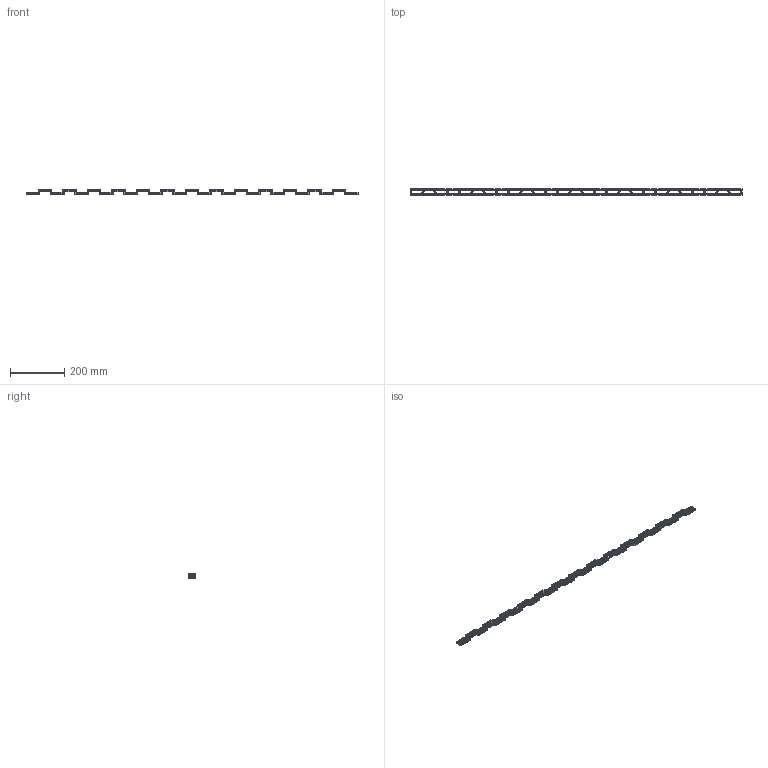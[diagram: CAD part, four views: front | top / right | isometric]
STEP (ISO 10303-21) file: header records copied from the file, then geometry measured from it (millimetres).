
FILE_DESCRIPTION(('Open CASCADE Model'),'2;1');
FILE_NAME('Open CASCADE Shape Model','1970-01-01T00:00:00',('Author'),( 'Open CASCADE'),'Open CASCADE STEP processor 7.7','Open CASCADE 7.7' ,'Unknown');
FILE_SCHEMA(('AUTOMOTIVE_DESIGN { 1 0 10303 214 1 1 1 1 }'));
Length unit declared in the file: millimetre
Products named in the file (325): Open CASCADE STEP translator 7.7 3; Open CASCADE STEP translator 7.7 3.1; Open CASCADE STEP translator 7.7 3.2; Open CASCADE STEP translator 7.7 3.3; Open CASCADE STEP translator 7.7 3.4; Open CASCADE STEP translator 7.7 3.5; Open CASCADE STEP translator 7.7 3.6; Open CASCADE STEP translator 7.7 3.7; Open CASCADE STEP translator 7.7 3.8; Open CASCADE STEP translator 7.7 3.9; Open CASCADE STEP translator 7.7 3.10; Open CASCADE STEP translator 7.7 3.11; Open CASCADE STEP translator 7.7 3.12; Open CASCADE STEP translator 7.7 3.13; Open CASCADE STEP translator 7.7 3.14; Open CASCADE STEP translator 7.7 3.15; Open CASCADE STEP translator 7.7 3.16; Open CASCADE STEP translator 7.7 3.17; Open CASCADE STEP translator 7.7 3.18; Open CASCADE STEP translator 7.7 3.19; Open CASCADE STEP translator 7.7 3.20; Open CASCADE STEP translator 7.7 3.21; Open CASCADE STEP translator 7.7 3.22; Open CASCADE STEP translator 7.7 3.23; Open CASCADE STEP translator 7.7 3.24; Open CASCADE STEP translator 7.7 3.25; Open CASCADE STEP translator 7.7 3.26; Open CASCADE STEP translator 7.7 3.27; Open CASCADE STEP translator 7.7 3.28; Open CASCADE STEP translator 7.7 3.29; Open CASCADE STEP translator 7.7 3.30; Open CASCADE STEP translator 7.7 3.31; Open CASCADE STEP translator 7.7 3.32; Open CASCADE STEP translator 7.7 3.33; Open CASCADE STEP translator 7.7 3.34; Open CASCADE STEP translator 7.7 3.35; Open CASCADE STEP translator 7.7 3.36; Open CASCADE STEP translator 7.7 3.37; Open CASCADE STEP translator 7.7 3.38; Open CASCADE STEP translator 7.7 3.39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
Assembly tree (324 placements, depth 2):
  Open CASCADE STEP translator 7.7 3
    Open CASCADE STEP translator 7.7 3.1
    Open CASCADE STEP translator 7.7 3.2
    Open CASCADE STEP translator 7.7 3.3
    Open CASCADE STEP translator 7.7 3.4
    Open CASCADE STEP translator 7.7 3.5
    Open CASCADE STEP translator 7.7 3.6
    Open CASCADE STEP translator 7.7 3.7
    Open CASCADE STEP translator 7.7 3.8
    Open CASCADE STEP translator 7.7 3.9
    Open CASCADE STEP translator 7.7 3.10
    Open CASCADE STEP translator 7.7 3.11
    Open CASCADE STEP translator 7.7 3.12
    Open CASCADE STEP translator 7.7 3.13
    Open CASCADE STEP translator 7.7 3.14
    Open CASCADE STEP translator 7.7 3.15
    Open CASCADE STEP translator 7.7 3.16
    Open CASCADE STEP translator 7.7 3.17
    Open CASCADE STEP translator 7.7 3.18
    Open CASCADE STEP translator 7.7 3.19
    Open CASCADE STEP translator 7.7 3.20
    Open CASCADE STEP translator 7.7 3.21
    Open CASCADE STEP translator 7.7 3.22
    Open CASCADE STEP translator 7.7 3.23
    Open CASCADE STEP translator 7.7 3.24
    Open CASCADE STEP translator 7.7 3.25
    Open CASCADE STEP translator 7.7 3.26
    Open CASCADE STEP translator 7.7 3.27
    Open CASCADE STEP translator 7.7 3.28
    Open CASCADE STEP translator 7.7 3.29
    Open CASCADE STEP translator 7.7 3.30
    Open CASCADE STEP translator 7.7 3.31
    Open CASCADE STEP translator 7.7 3.32
    Open CASCADE STEP translator 7.7 3.33
    Open CASCADE STEP translator 7.7 3.34
    Open CASCADE STEP translator 7.7 3.35
    Open CASCADE STEP translator 7.7 3.36
    Open CASCADE STEP translator 7.7 3.37
    Open CASCADE STEP translator 7.7 3.38
    Open CASCADE STEP translator 7.7 3.39
    Open CASCADE STEP translator 7.7 3.40
    Open CASCADE STEP translator 7.7 3.41
    Open CASCADE STEP translator 7.7 3.42
    Open CASCADE STEP translator 7.7 3.43
    Open CASCADE STEP translator 7.7 3.44
    Open CASCADE STEP translator 7.7 3.45
    Open CASCADE STEP translator 7.7 3.46
    Open CASCADE STEP translator 7.7 3.47
    Open CASCADE STEP translator 7.7 3.48
    Open CASCADE STEP translator 7.7 3.49
    Open CASCADE STEP translator 7.7 3.50
    Open CASCADE STEP translator 7.7 3.51
    Open CASCADE STEP translator 7.7 3.52
    Open CASCADE STEP translator 7.7 3.53
    Open CASCADE STEP translator 7.7 3.54
    Open CASCADE STEP translator 7.7 3.55
    Open CASCADE STEP translator 7.7 3.56
    Open CASCADE STEP translator 7.7 3.57
    Open CASCADE STEP translator 7.7 3.58
    Open CASCADE STEP translator 7.7 3.59
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Bounding box: 1228.3 x 22.91 x 15.56 mm (x, y, z)
Volume: 168068.8 mm3; surface area: 326134.3 mm2
Topology: 324 solids, 324 shells, 3240 faces, 7776 edges, 5184 vertices
Faces by surface type: plane 3240
Entity records: 194416 total; most frequent: CARTESIAN_POINT 37261, DIRECTION 25274, LINE 18144, VECTOR 18144, ORIENTED_EDGE 15552, PCURVE 15552, DEFINITIONAL_REPRESENTATION 15552, EDGE_CURVE 7776
